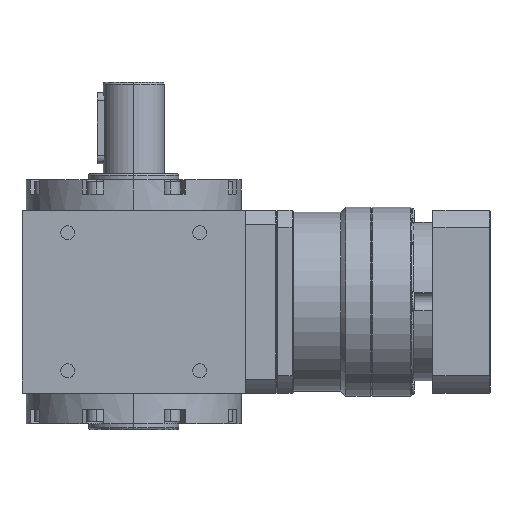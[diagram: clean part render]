
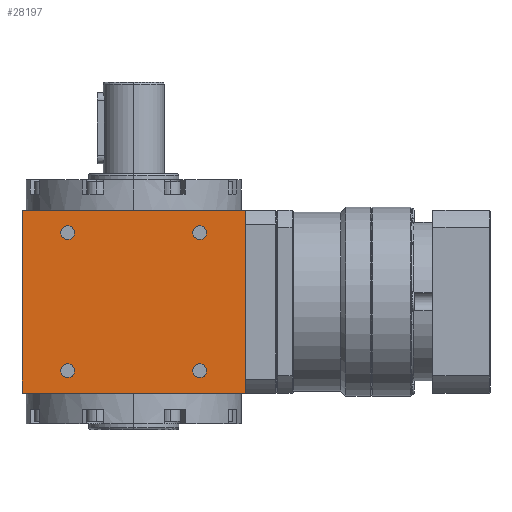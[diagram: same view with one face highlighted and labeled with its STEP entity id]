
A CAD part, left-side view. The second image highlights one B-rep face of the part: STEP entity #28197.
In plain terms, the highlighted planar face has unit normal (-1, 0, 0).
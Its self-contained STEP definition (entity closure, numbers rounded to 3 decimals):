
#80 = DIRECTION ( 'NONE',  ( 0., -1., 0. ) ) ;
#354 = LINE ( 'NONE', #29995, #18187 ) ;
#865 = DIRECTION ( 'NONE',  ( 1., 0., 0. ) ) ;
#1027 = DIRECTION ( 'NONE',  ( 1., 0., 0. ) ) ;
#1267 = EDGE_CURVE ( 'NONE', #12722, #21132, #354, .T. ) ;
#1277 = CARTESIAN_POINT ( 'NONE',  ( -55., 29.1, -34. ) ) ;
#1345 = DIRECTION ( 'NONE',  ( 0., -1., 0. ) ) ;
#1424 = AXIS2_PLACEMENT_3D ( 'NONE', #18670, #28688, #19613 ) ;
#1470 = DIRECTION ( 'NONE',  ( 0., -1., 0. ) ) ;
#2185 = EDGE_CURVE ( 'NONE', #20260, #29350, #15093, .T. ) ;
#2321 = AXIS2_PLACEMENT_3D ( 'NONE', #6476, #21325, #11420 ) ;
#2466 = CIRCLE ( 'NONE', #4022, 3.4 ) ;
#4022 = AXIS2_PLACEMENT_3D ( 'NONE', #14404, #9107, #19194 ) ;
#4136 = EDGE_LOOP ( 'NONE', ( #17341, #19993, #6139, #23432 ) ) ;
#4238 = AXIS2_PLACEMENT_3D ( 'NONE', #23859, #6399, #1470 ) ;
#4478 = ORIENTED_EDGE ( 'NONE', *, *, #27838, .T. ) ;
#5003 = LINE ( 'NONE', #22624, #5110 ) ;
#5046 = ORIENTED_EDGE ( 'NONE', *, *, #6352, .T. ) ;
#5110 = VECTOR ( 'NONE', #80, 1000. ) ;
#5202 = CARTESIAN_POINT ( 'NONE',  ( -55., 35.9, -34. ) ) ;
#5715 = EDGE_CURVE ( 'NONE', #18147, #25881, #14875, .T. ) ;
#6139 = ORIENTED_EDGE ( 'NONE', *, *, #1267, .T. ) ;
#6352 = EDGE_CURVE ( 'NONE', #22108, #12450, #26887, .T. ) ;
#6388 = CARTESIAN_POINT ( 'NONE',  ( -55., -29.1, -34. ) ) ;
#6399 = DIRECTION ( 'NONE',  ( 1., 0., 0. ) ) ;
#6476 = CARTESIAN_POINT ( 'NONE',  ( -55., -32.5, -34. ) ) ;
#7113 = CIRCLE ( 'NONE', #23443, 3.4 ) ;
#7212 = FACE_BOUND ( 'NONE', #23567, .T. ) ;
#7582 = CARTESIAN_POINT ( 'NONE',  ( -55., -55., -45. ) ) ;
#7897 = CIRCLE ( 'NONE', #4238, 3.4 ) ;
#8796 = DIRECTION ( 'NONE',  ( 0., -1., 0. ) ) ;
#8887 = DIRECTION ( 'NONE',  ( 0., -1., 0. ) ) ;
#9107 = DIRECTION ( 'NONE',  ( 1., 0., 0. ) ) ;
#9934 = EDGE_CURVE ( 'NONE', #29350, #20260, #26866, .T. ) ;
#11019 = VERTEX_POINT ( 'NONE', #14794 ) ;
#11420 = DIRECTION ( 'NONE',  ( 0., -1., 0. ) ) ;
#11684 = DIRECTION ( 'NONE',  ( 1., 0., 0. ) ) ;
#12450 = VERTEX_POINT ( 'NONE', #16081 ) ;
#12722 = VERTEX_POINT ( 'NONE', #7582 ) ;
#13243 = AXIS2_PLACEMENT_3D ( 'NONE', #24032, #11684, #18936 ) ;
#13827 = CARTESIAN_POINT ( 'NONE',  ( -55., 55., -45. ) ) ;
#14294 = AXIS2_PLACEMENT_3D ( 'NONE', #16229, #28750, #8796 ) ;
#14404 = CARTESIAN_POINT ( 'NONE',  ( -55., -32.5, 34. ) ) ;
#14581 = CARTESIAN_POINT ( 'NONE',  ( -55., 29.1, 34. ) ) ;
#14794 = CARTESIAN_POINT ( 'NONE',  ( -55., 35.9, 34. ) ) ;
#14875 = LINE ( 'NONE', #24899, #16840 ) ;
#15006 = EDGE_CURVE ( 'NONE', #21361, #11019, #16842, .T. ) ;
#15093 = CIRCLE ( 'NONE', #28143, 3.4 ) ;
#15497 = DIRECTION ( 'NONE',  ( 0., -1., 0. ) ) ;
#15519 = EDGE_CURVE ( 'NONE', #11019, #21361, #7897, .T. ) ;
#15590 = ORIENTED_EDGE ( 'NONE', *, *, #15006, .T. ) ;
#15845 = CARTESIAN_POINT ( 'NONE',  ( -55., 32.5, 34. ) ) ;
#16081 = CARTESIAN_POINT ( 'NONE',  ( -55., -35.9, -34. ) ) ;
#16229 = CARTESIAN_POINT ( 'NONE',  ( -55., -32.5, -34. ) ) ;
#16778 = FACE_BOUND ( 'NONE', #22019, .T. ) ;
#16840 = VECTOR ( 'NONE', #32345, 1000. ) ;
#16842 = CIRCLE ( 'NONE', #21056, 3.4 ) ;
#17126 = FACE_BOUND ( 'NONE', #30982, .T. ) ;
#17331 = ORIENTED_EDGE ( 'NONE', *, *, #26959, .T. ) ;
#17341 = ORIENTED_EDGE ( 'NONE', *, *, #5715, .T. ) ;
#17576 = ORIENTED_EDGE ( 'NONE', *, *, #25259, .T. ) ;
#17969 = DIRECTION ( 'NONE',  ( 0., 0., 1. ) ) ;
#18147 = VERTEX_POINT ( 'NONE', #27179 ) ;
#18187 = VECTOR ( 'NONE', #17969, 1000. ) ;
#18670 = CARTESIAN_POINT ( 'NONE',  ( -55., 55., -45. ) ) ;
#18936 = DIRECTION ( 'NONE',  ( 0., -1., 0. ) ) ;
#19194 = DIRECTION ( 'NONE',  ( 0., -1., 0. ) ) ;
#19311 = CARTESIAN_POINT ( 'NONE',  ( -55., -29.1, 34. ) ) ;
#19613 = DIRECTION ( 'NONE',  ( 0., 0., 1. ) ) ;
#19769 = FACE_BOUND ( 'NONE', #27319, .T. ) ;
#19993 = ORIENTED_EDGE ( 'NONE', *, *, #28001, .T. ) ;
#20260 = VERTEX_POINT ( 'NONE', #5202 ) ;
#20487 = CARTESIAN_POINT ( 'NONE',  ( -55., 32.5, -34. ) ) ;
#21056 = AXIS2_PLACEMENT_3D ( 'NONE', #15845, #865, #1345 ) ;
#21132 = VERTEX_POINT ( 'NONE', #27451 ) ;
#21325 = DIRECTION ( 'NONE',  ( 1., 0., 0. ) ) ;
#21361 = VERTEX_POINT ( 'NONE', #14581 ) ;
#22019 = EDGE_LOOP ( 'NONE', ( #30500, #22606 ) ) ;
#22108 = VERTEX_POINT ( 'NONE', #6388 ) ;
#22606 = ORIENTED_EDGE ( 'NONE', *, *, #2185, .T. ) ;
#22624 = CARTESIAN_POINT ( 'NONE',  ( -55., 55., -45. ) ) ;
#23432 = ORIENTED_EDGE ( 'NONE', *, *, #27122, .T. ) ;
#23443 = AXIS2_PLACEMENT_3D ( 'NONE', #25375, #28004, #15497 ) ;
#23567 = EDGE_LOOP ( 'NONE', ( #17331, #4478 ) ) ;
#23578 = FACE_OUTER_BOUND ( 'NONE', #4136, .T. ) ;
#23859 = CARTESIAN_POINT ( 'NONE',  ( -55., 32.5, 34. ) ) ;
#23863 = CARTESIAN_POINT ( 'NONE',  ( -55., 55., 45. ) ) ;
#23918 = VERTEX_POINT ( 'NONE', #27373 ) ;
#24032 = CARTESIAN_POINT ( 'NONE',  ( -55., 32.5, -34. ) ) ;
#24899 = CARTESIAN_POINT ( 'NONE',  ( -55., 55., -45. ) ) ;
#25259 = EDGE_CURVE ( 'NONE', #12450, #22108, #28081, .T. ) ;
#25375 = CARTESIAN_POINT ( 'NONE',  ( -55., -32.5, 34. ) ) ;
#25403 = ORIENTED_EDGE ( 'NONE', *, *, #15519, .T. ) ;
#25881 = VERTEX_POINT ( 'NONE', #13827 ) ;
#26163 = DIRECTION ( 'NONE',  ( 0., 1., 0. ) ) ;
#26866 = CIRCLE ( 'NONE', #13243, 3.4 ) ;
#26887 = CIRCLE ( 'NONE', #14294, 3.4 ) ;
#26959 = EDGE_CURVE ( 'NONE', #23918, #30336, #7113, .T. ) ;
#27122 = EDGE_CURVE ( 'NONE', #21132, #18147, #30966, .T. ) ;
#27136 = PLANE ( 'NONE',  #1424 ) ;
#27179 = CARTESIAN_POINT ( 'NONE',  ( -55., 55., 45. ) ) ;
#27319 = EDGE_LOOP ( 'NONE', ( #15590, #25403 ) ) ;
#27373 = CARTESIAN_POINT ( 'NONE',  ( -55., -35.9, 34. ) ) ;
#27451 = CARTESIAN_POINT ( 'NONE',  ( -55., -55., 45. ) ) ;
#27648 = VECTOR ( 'NONE', #26163, 1000. ) ;
#27838 = EDGE_CURVE ( 'NONE', #30336, #23918, #2466, .T. ) ;
#28001 = EDGE_CURVE ( 'NONE', #25881, #12722, #5003, .T. ) ;
#28004 = DIRECTION ( 'NONE',  ( 1., 0., 0. ) ) ;
#28081 = CIRCLE ( 'NONE', #2321, 3.4 ) ;
#28143 = AXIS2_PLACEMENT_3D ( 'NONE', #20487, #1027, #8887 ) ;
#28197 = ADVANCED_FACE ( 'NONE', ( #23578, #19769, #16778, #17126, #7212 ), #27136, .T. ) ;
#28688 = DIRECTION ( 'NONE',  ( -1., 0., 0. ) ) ;
#28750 = DIRECTION ( 'NONE',  ( 1., 0., 0. ) ) ;
#29350 = VERTEX_POINT ( 'NONE', #1277 ) ;
#29995 = CARTESIAN_POINT ( 'NONE',  ( -55., -55., -45. ) ) ;
#30336 = VERTEX_POINT ( 'NONE', #19311 ) ;
#30500 = ORIENTED_EDGE ( 'NONE', *, *, #9934, .T. ) ;
#30966 = LINE ( 'NONE', #23863, #27648 ) ;
#30982 = EDGE_LOOP ( 'NONE', ( #17576, #5046 ) ) ;
#32345 = DIRECTION ( 'NONE',  ( 0., 0., -1. ) ) ;
